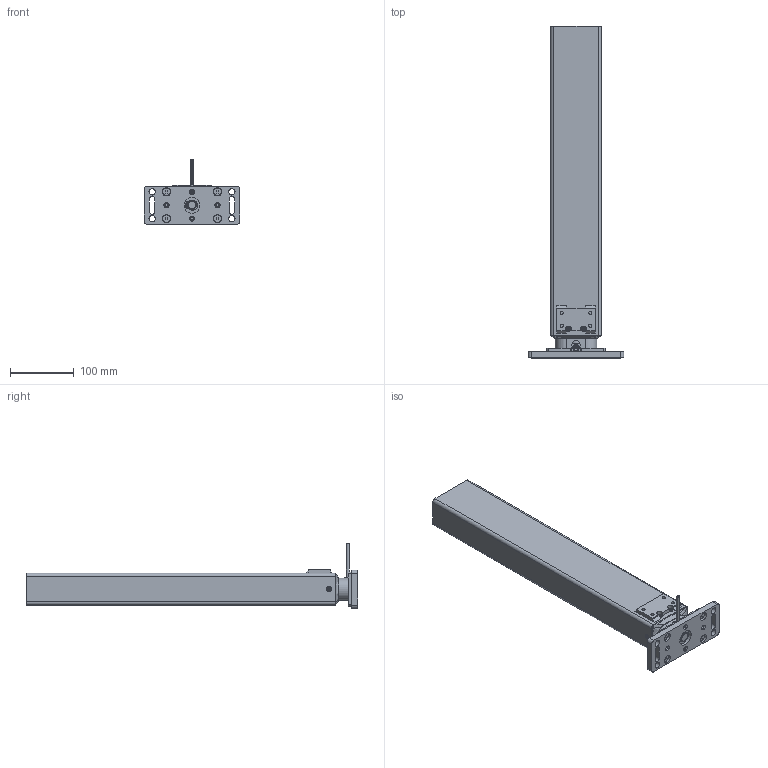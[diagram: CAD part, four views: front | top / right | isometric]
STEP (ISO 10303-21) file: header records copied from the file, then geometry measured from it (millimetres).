
FILE_DESCRIPTION(/* description */ ('Unknown'),/* implementation_level */ '2;1');
FILE_NAME(/* name */ '306.00099 Tischbein TA 1840 eingefahren',/* time_stamp */ '2018-02-01T12:03:37+01:00',/* author */ ('Unknown'),/* organization */ ('Unknown'),/* preprocessor_version */ 'ST-DEVELOPER v16.7',/* originating_system */ 'DEX',/* authorisation */ $);
FILE_SCHEMA (('AUTOMOTIVE_DESIGN {1 0 10303 214 3 1 1}'));
Length unit declared in the file: millimetre
Products named in the file (23): 306.00099; 142.00068; 109.00148_oa_0; 125.00063; 142.00021; 115.00008; 125.00019; 125.00012; 142.00002; 125.00021; 127.00038; 127.00049_oa_1; Aussenprofil TA 1440; 127.00032; 127.00035; Innenprofil TA 1440; Abschlussplatte; 127.00048; Schraube 2,9x6,4; 127.00049_2'403_2'488_Kehlnaht 1_oa_2; 113.00002_70mm; 142.00031; 142.00077
Assembly tree (31 placements, depth 4):
  306.00099
    142.00068
    109.00148_oa_0
      125.00063
      142.00021
      115.00008
        125.00019
        125.00012  x2
        142.00002  x2
      125.00021
    127.00038
    127.00049_oa_1
      Aussenprofil TA 1440
      127.00032
      127.00035
      Innenprofil TA 1440
      Abschlussplatte
      127.00048
      Schraube 2,9x6,4  x6
    113.00002_70mm
    142.00031
    142.00077  x4
  127.00049_2'403_2'488_Kehlnaht 1_oa_2
Bounding box: 150 x 520.5 x 101.5 mm (x, y, z)
Volume: 517577.1 mm3; surface area: 468736.4 mm2
Topology: 32 solids, 32 shells, 998 faces, 2340 edges, 1391 vertices
Faces by surface type: cylinder 370, plane 332, bspline 129, cone 80, torus 74, sphere 13
Full cylindrical faces by diameter (mm): 1.8 x2, 2.2 x1, 2.5 x6, 2.9 x6, 2.99 x1, 3 x1, 3.5 x1, 4 x1, 4.1 x1, 4.2 x1, 4.917 x16, 5.8 x8, 6 x4, 6.5 x6, 6.647 x1, 6.917 x2, 7 x4, 7.9 x1, 8 x2, 8.376 x2, 9 x1, 10 x4, 12.5 x1, 13 x6, 13.5 x1, 14 x4, 14.4 x1, 17.8 x3, 17.9 x2, 18 x2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
Entity records: 24094 total; most frequent: CARTESIAN_POINT 5888, DIRECTION 3315, ORIENTED_EDGE 3162, EDGE_CURVE 1581, AXIS2_PLACEMENT_3D 1325, VERTEX_POINT 1033, FACE_BOUND 986, EDGE_LOOP 982
